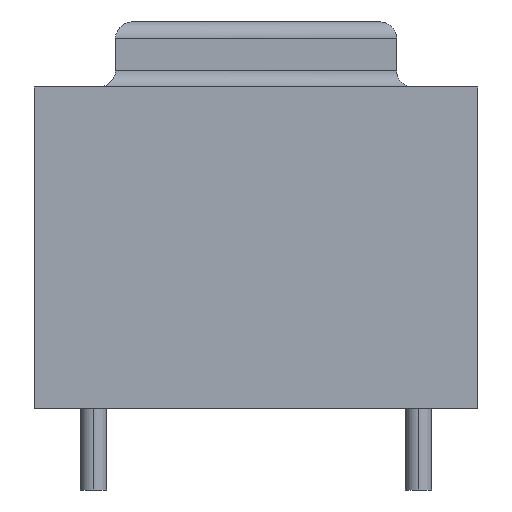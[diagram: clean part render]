
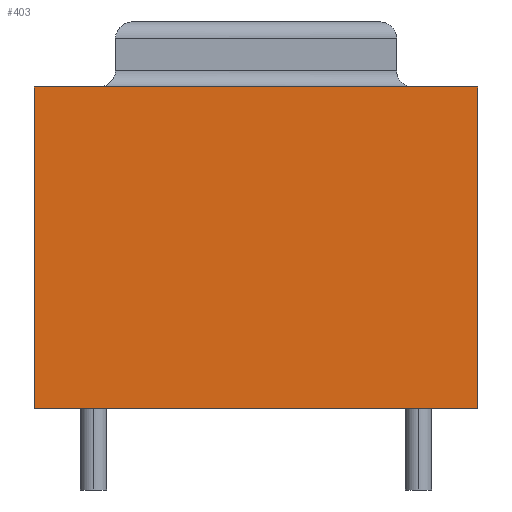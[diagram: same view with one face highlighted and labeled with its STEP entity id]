
A CAD part, left-side view. The second image highlights one B-rep face of the part: STEP entity #403.
In plain terms, the highlighted planar face has unit normal (-1, 0, 0).
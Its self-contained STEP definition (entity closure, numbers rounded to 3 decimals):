
#18 = CARTESIAN_POINT ( 'NONE',  ( 0., 0., 19.8 ) ) ;
#35 = CARTESIAN_POINT ( 'NONE',  ( 0., 27.3, 0. ) ) ;
#43 = VERTEX_POINT ( 'NONE', #825 ) ;
#83 = VECTOR ( 'NONE', #780, 1000. ) ;
#131 = VERTEX_POINT ( 'NONE', #35 ) ;
#146 = VECTOR ( 'NONE', #414, 1000. ) ;
#182 = ORIENTED_EDGE ( 'NONE', *, *, #814, .T. ) ;
#190 = VERTEX_POINT ( 'NONE', #686 ) ;
#220 = AXIS2_PLACEMENT_3D ( 'NONE', #18, #855, #751 ) ;
#316 = VERTEX_POINT ( 'NONE', #424 ) ;
#403 = ADVANCED_FACE ( 'NONE', ( #620 ), #550, .F. ) ;
#414 = DIRECTION ( 'NONE',  ( 0., -1., 0. ) ) ;
#424 = CARTESIAN_POINT ( 'NONE',  ( 0., 0., 0. ) ) ;
#457 = EDGE_CURVE ( 'NONE', #43, #190, #664, .T. ) ;
#519 = VECTOR ( 'NONE', #539, 1000. ) ;
#539 = DIRECTION ( 'NONE',  ( 0., -1., 0. ) ) ;
#550 = PLANE ( 'NONE',  #220 ) ;
#561 = ORIENTED_EDGE ( 'NONE', *, *, #621, .T. ) ;
#565 = CARTESIAN_POINT ( 'NONE',  ( 0., 0., 19.8 ) ) ;
#586 = ORIENTED_EDGE ( 'NONE', *, *, #457, .F. ) ;
#591 = ORIENTED_EDGE ( 'NONE', *, *, #1057, .F. ) ;
#620 = FACE_OUTER_BOUND ( 'NONE', #796, .T. ) ;
#621 = EDGE_CURVE ( 'NONE', #43, #131, #981, .T. ) ;
#649 = CARTESIAN_POINT ( 'NONE',  ( 0., 0., 0. ) ) ;
#664 = LINE ( 'NONE', #565, #146 ) ;
#686 = CARTESIAN_POINT ( 'NONE',  ( 0., 0., 19.8 ) ) ;
#745 = LINE ( 'NONE', #649, #519 ) ;
#751 = DIRECTION ( 'NONE',  ( 0., 0., -1. ) ) ;
#780 = DIRECTION ( 'NONE',  ( 0., 0., -1. ) ) ;
#792 = DIRECTION ( 'NONE',  ( 0., 0., -1. ) ) ;
#796 = EDGE_LOOP ( 'NONE', ( #182, #591, #586, #561 ) ) ;
#814 = EDGE_CURVE ( 'NONE', #131, #316, #745, .T. ) ;
#825 = CARTESIAN_POINT ( 'NONE',  ( 0., 27.3, 19.8 ) ) ;
#855 = DIRECTION ( 'NONE',  ( 1., 0., 0. ) ) ;
#862 = VECTOR ( 'NONE', #792, 1000. ) ;
#882 = CARTESIAN_POINT ( 'NONE',  ( 0., 27.3, 19.8 ) ) ;
#893 = CARTESIAN_POINT ( 'NONE',  ( 0., 0., 19.8 ) ) ;
#981 = LINE ( 'NONE', #882, #83 ) ;
#997 = LINE ( 'NONE', #893, #862 ) ;
#1057 = EDGE_CURVE ( 'NONE', #190, #316, #997, .T. ) ;
